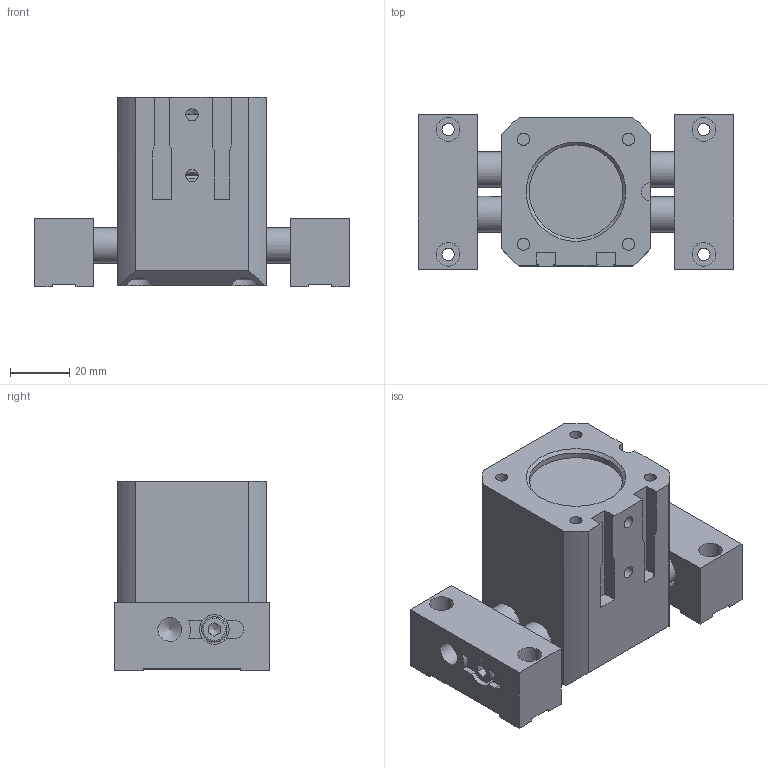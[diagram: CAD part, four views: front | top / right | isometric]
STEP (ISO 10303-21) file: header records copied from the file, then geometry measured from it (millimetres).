
FILE_DESCRIPTION((''),'2;1');
FILE_NAME('T:\CAD\Standard\Daten\3D-Datenbank\GP\4 - 3D-CAD-Daten GP 050-125\GP063\step-Daten\G-GP063-l2-GS+UB open.stp','2013-11-07T14:52:47',('Dirk'),(''),'Autodesk Inventor 2011','Autodesk Inventor 2011','');
FILE_SCHEMA(('AUTOMOTIVE_DESIGN { 1 0 10303 214 1 1 1 1 }'));
Length unit declared in the file: millimetre
Products named in the file (1): Bauteil94
Bounding box: 106.18 x 52 x 64 mm (x, y, z)
Volume: 170764.9 mm3; surface area: 54311.9 mm2
Topology: 1 solids, 23 shells, 394 faces, 1019 edges, 665 vertices
Faces by surface type: plane 230, cylinder 106, cone 33, torus 21, bspline 4
Full cylindrical faces by diameter (mm): 2.459 x2, 4.134 x10, 5 x1, 5.5 x1, 6.647 x1, 8 x7, 8.5 x7, 10 x6, 12 x6, 14 x7, 16 x2, 18.6 x1, 25 x1, 28.9 x1, 31.5 x1, 33 x1, 33.6 x2, 35.5 x2, 40 x5
Entity records: 12864 total; most frequent: CARTESIAN_POINT 3697, DIRECTION 1774, ORIENTED_EDGE 1654, EDGE_CURVE 827, AXIS2_PLACEMENT_3D 668, VERTEX_POINT 593, EDGE_LOOP 570, VECTOR 438
